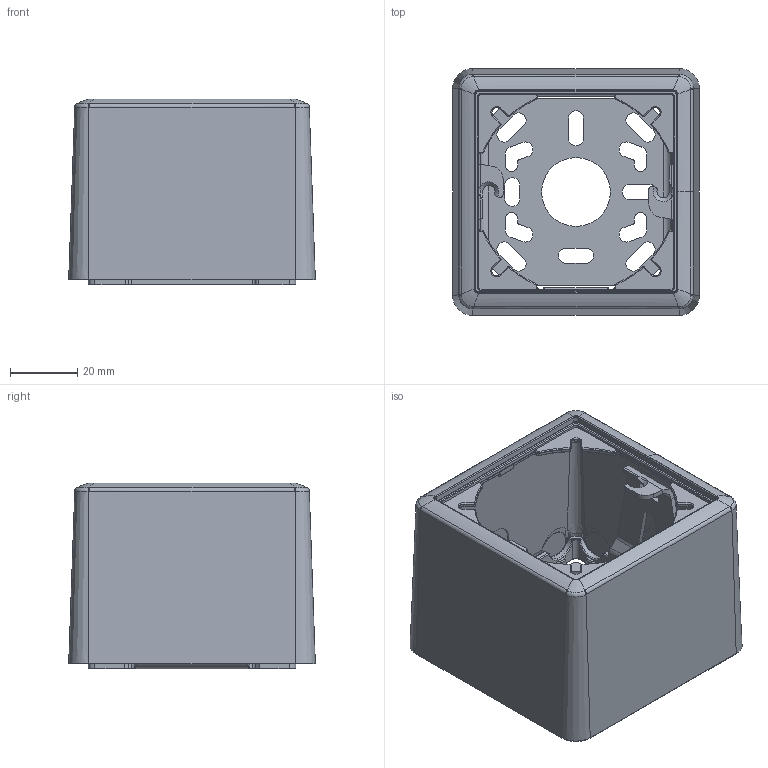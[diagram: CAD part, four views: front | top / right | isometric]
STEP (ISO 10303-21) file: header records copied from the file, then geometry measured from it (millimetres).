
FILE_DESCRIPTION((''),'2;1');
FILE_NAME('0KOMBFX541X161_ASM','2022-05-19T20:18:26',('SESA231899'),('Schneider-Electric'),'CREO PARAMETRIC BY PTC INC, 2019471','CREO PARAMETRIC BY PTC INC, 2019471','');
FILE_SCHEMA(('CONFIG_CONTROL_DESIGN'));
Products named in the file (5): 211065; 211063; 211067; GEX2651001_ASM; 0KOMBFX541X161_ASM
Assembly tree (4 placements, depth 3):
  0KOMBFX541X161_ASM
    GEX2651001_ASM
      211065
      211063
      211067
Bounding box: 73.6 x 73.6 x 55.5 mm (x, y, z)
Volume: 40860.2 mm3; surface area: 50318.7 mm2
Topology: 3 solids, 3 shells, 1728 faces, 4448 edges, 2723 vertices
Faces by surface type: plane 667, cylinder 480, bspline 358, cone 130, torus 45, sphere 44, extrusion 4
Entity records: 70339 total; most frequent: CARTESIAN_POINT 31366, ORIENTED_EDGE 8896, DIRECTION 6979, EDGE_CURVE 4448, VERTEX_POINT 2723, AXIS2_PLACEMENT_3D 2331, VECTOR 2317, LINE 2313
